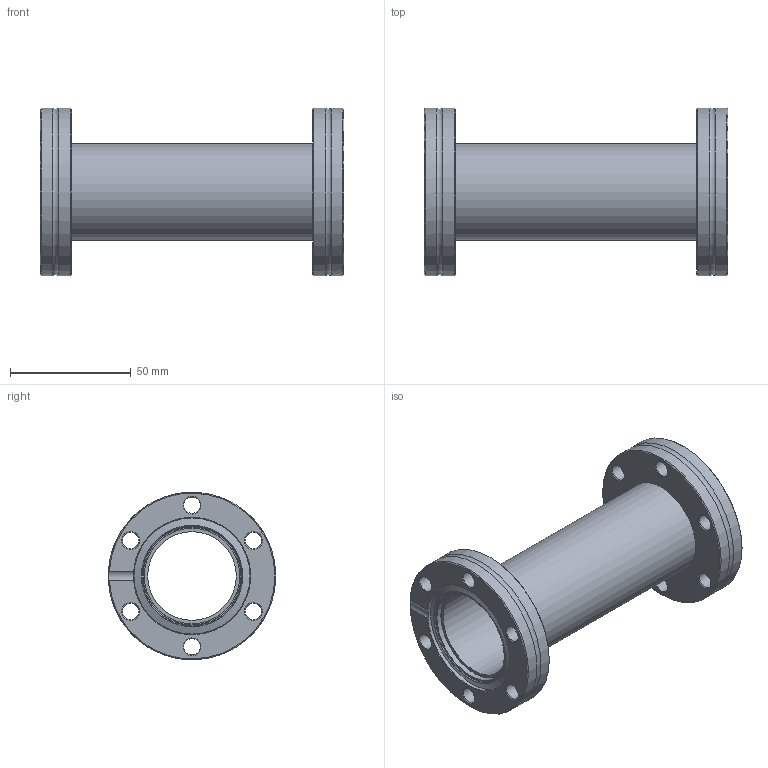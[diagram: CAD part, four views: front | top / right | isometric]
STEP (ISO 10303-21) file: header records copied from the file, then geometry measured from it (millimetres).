
FILE_DESCRIPTION((''),'2;1');
FILE_NAME('W:\13785_CF_Global_Fit_Umsetzung\117_Intermediate_Piece\M213-202.stp','2010-09-01T13:02:15',('KAA'),(''),'Autodesk Inventor 2011','Autodesk Inventor 2011','');
FILE_SCHEMA(('AUTOMOTIVE_DESIGN { 1 0 10303 214 1 1 1 1 }'));
Length unit declared in the file: millimetre
Products named in the file (1): 213-202
Bounding box: 126 x 69.5 x 69.5 mm (x, y, z)
Volume: 80870.4 mm3; surface area: 51683.6 mm2
Topology: 1 solids, 1 shells, 84 faces, 196 edges, 121 vertices
Faces by surface type: cone 37, cylinder 27, plane 11, torus 9
Full cylindrical faces by diameter (mm): 6.8 x12, 36.8 x1, 39.5 x2, 40 x1, 40.3 x2, 41 x1, 48.1 x1, 48.3 x1, 69.5 x4
Entity records: 2125 total; most frequent: CARTESIAN_POINT 371, DIRECTION 362, ORIENTED_EDGE 224, EDGE_LOOP 184, AXIS2_PLACEMENT_3D 179, EDGE_CURVE 112, VERTEX_POINT 104, FACE_BOUND 100
